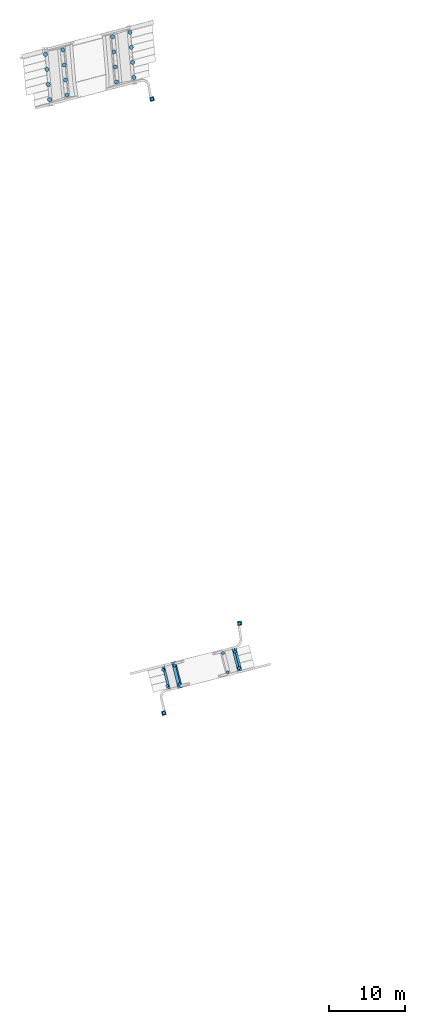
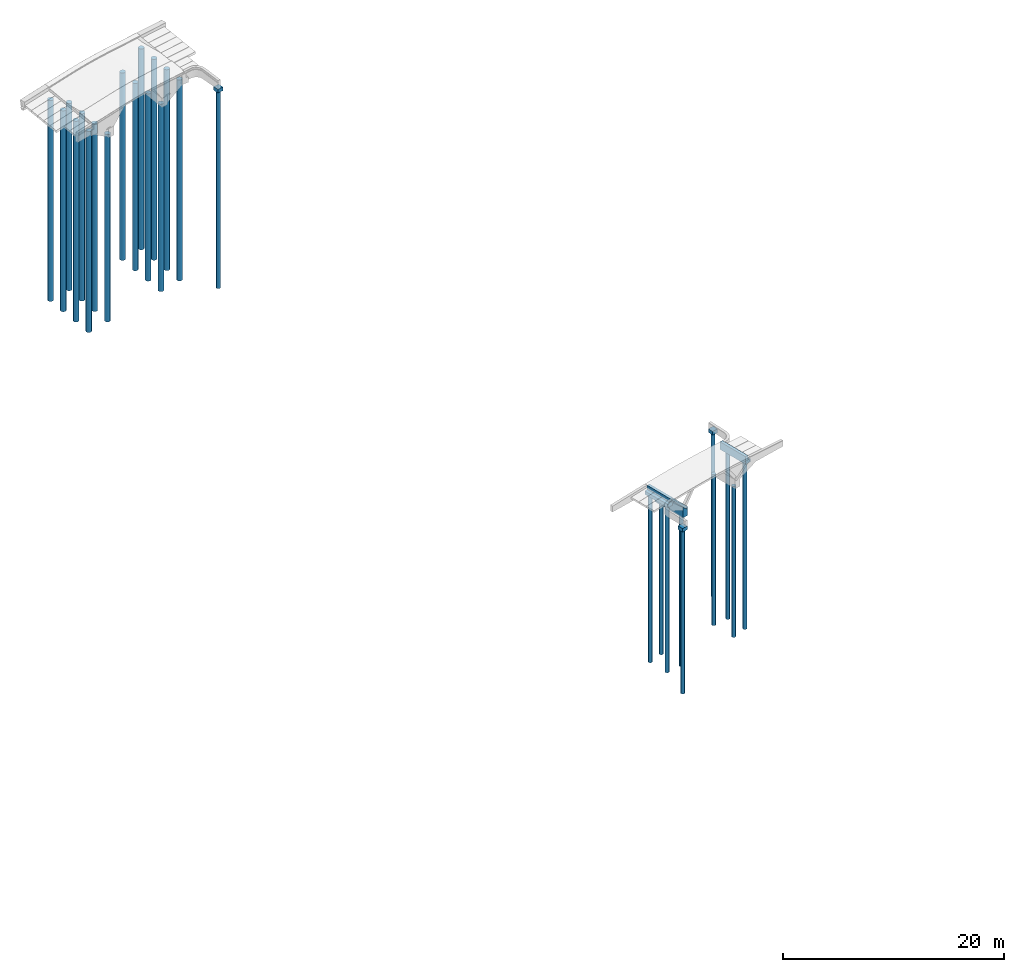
# One storey, part 2 of 15: 27 piles, 6 footings.
"""IFC2X3 building model written with IfcOpenShell, lengths in millimetres."""

from ifc_helpers import new_model, entity, si_unit, converted_unit, derived_unit, direction, frame, frame_2d, origin, origin_2d_with_axis, place, context, subcontext, project, spatial, polyline, rectangle, circle, outline, extrude, material, element, save


model = new_model("IFC2X3")

# Units and contexts
model_context = context("Model", 3, precision=0.01, world=origin(), true_north=direction((6.12303176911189e-17, 1.0)))
body_context = subcontext(model_context, "Body", "Model", "MODEL_VIEW")
ifc_project = project(units=[si_unit("LENGTHUNIT", "METRE", prefix="MILLI"), si_unit("AREAUNIT", "SQUARE_METRE"), si_unit("VOLUMEUNIT", "CUBIC_METRE"), converted_unit("PLANEANGLEUNIT", "DEGREE", entity("IfcRatioMeasure", 0.0174532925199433), si_unit("PLANEANGLEUNIT", "RADIAN"), dimensions=[0, 0, 0, 0, 0, 0, 0]), si_unit("MASSUNIT", "GRAM", prefix="KILO"), derived_unit("MASSDENSITYUNIT", [(si_unit("MASSUNIT", "GRAM", prefix="KILO"), 1), (si_unit("LENGTHUNIT", "METRE"), -3)]), si_unit("TIMEUNIT", "SECOND"), si_unit("FREQUENCYUNIT", "HERTZ"), si_unit("THERMODYNAMICTEMPERATUREUNIT", "DEGREE_CELSIUS"), derived_unit("THERMALTRANSMITTANCEUNIT", [(si_unit("MASSUNIT", "GRAM", prefix="KILO"), 1), (si_unit("THERMODYNAMICTEMPERATUREUNIT", "KELVIN"), -1), (si_unit("TIMEUNIT", "SECOND"), -3)]), derived_unit("VOLUMETRICFLOWRATEUNIT", [(si_unit("LENGTHUNIT", "METRE"), 3), (si_unit("TIMEUNIT", "SECOND"), -1)]), si_unit("ELECTRICCURRENTUNIT", "AMPERE"), si_unit("ELECTRICVOLTAGEUNIT", "VOLT"), si_unit("POWERUNIT", "WATT"), si_unit("FORCEUNIT", "NEWTON", prefix="KILO"), si_unit("ILLUMINANCEUNIT", "LUX"), si_unit("LUMINOUSFLUXUNIT", "LUMEN"), si_unit("LUMINOUSINTENSITYUNIT", "CANDELA"), derived_unit("USERDEFINED", [(si_unit("MASSUNIT", "GRAM", prefix="KILO"), -1), (si_unit("LENGTHUNIT", "METRE"), -2), (si_unit("TIMEUNIT", "SECOND"), 3), (si_unit("LUMINOUSFLUXUNIT", "LUMEN"), 1)]), derived_unit("LINEARVELOCITYUNIT", [(si_unit("LENGTHUNIT", "METRE"), 1), (si_unit("TIMEUNIT", "SECOND"), -1)]), si_unit("PRESSUREUNIT", "PASCAL"), derived_unit("USERDEFINED", [(si_unit("LENGTHUNIT", "METRE"), -2), (si_unit("MASSUNIT", "GRAM", prefix="KILO"), 1), (si_unit("TIMEUNIT", "SECOND"), -2)])], contexts=[model_context])

# Site, building, storey
site_placement = place(None, origin())
site = spatial("IfcSite", under=ifc_project, at=site_placement, Name="Bruggen Achterburggracht Machinesloot", CompositionType="ELEMENT")
building_placement = place(site_placement, origin())
building = spatial("IfcBuilding", under=site, at=building_placement, Name="Bruggen Achterburggracht Machinesloot", CompositionType="ELEMENT")
storey_placement = place(building_placement, origin())
storey = spatial("IfcBuildingStorey", under=building, at=storey_placement, Name="00 begane grond", CompositionType="ELEMENT", Elevation=2.70716782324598e-13)

# Footings
ifc_material = material(Name="00_PBT_MAT_beton t.p.g.")
footing_1_placement = place(storey_placement, origin())
element("IfcFooting", 1, at=footing_1_placement, inside=storey, material=ifc_material, Name="319-150_funderingsbalk tpv stootplaat:Brug 2_600x850", ObjectType="319-150_funderingsbalk tpv stootplaat:Brug 2_600x850", PredefinedType="NOTDEFINED", context=body_context, shape_type="SweptSolid", body=[
    extrude(outline(polyline([(-463.546431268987, -225.219582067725), (-163.94089909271, -225.219582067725), (167.312349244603, -225.219582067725), (386.453568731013, -225.219582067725), (386.453568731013, -223.02376139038), (386.453568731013, 74.7804179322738), (-63.5464312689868, 74.7804179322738), (-63.5464312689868, 224.780417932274), (-108.546431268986, 374.780417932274), (-463.546431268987, 374.780417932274), (-463.546431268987, -225.219582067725)])), frame((-47678.0302227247, 38070.2188385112, -126.453568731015), z_axis=(-0.245012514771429, 0.969519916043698, 0.0), x_axis=(0.0, 0.0, 1.0)), (0.0, 0.0, 1.0), 3300.0),
])
footing_2_placement = place(storey_placement, origin())
element("IfcFooting", 2, at=footing_2_placement, inside=storey, material=ifc_material, Name="319-150_funderingsbalk tpv stootplaat:Brug 2_600x850", ObjectType="319-150_funderingsbalk tpv stootplaat:Brug 2_600x850", PredefinedType="NOTDEFINED", context=body_context, shape_type="SweptSolid", body=[
    extrude(outline(polyline([(-451.222422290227, -369.569371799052), (-96.222422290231, -369.569371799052), (-51.2224222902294, -219.569371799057), (-51.222422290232, -69.5693717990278), (398.777577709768, -69.5693717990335), (398.777577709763, 230.430628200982), (179.636358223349, 230.430628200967), (232.107441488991, 170.069551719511), (43.4300464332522, 6.05479447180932), (-151.616890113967, 230.430628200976), (-451.222422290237, 230.430628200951), (-451.222422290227, -369.569371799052)])), frame((-57039.3754039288, 35704.4636987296, -138.777577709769), z_axis=(-0.245012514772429, 0.969519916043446, 0.0), x_axis=(0.0, 0.0, 1.0)), (0.0, 0.0, 1.0), 2976.04309519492),
])
footing_3_placement = place(storey_placement, origin())
element("IfcFooting", 3, at=footing_3_placement, inside=storey, material=ifc_material, Name="16_PBT_SF_funderingsbalk enkele sponning:Brug 2_600x1000", ObjectType="16_PBT_SF_funderingsbalk enkele sponning:Brug 2_600x1000", PredefinedType="NOTDEFINED", context=body_context, shape_type="SweptSolid", body=[
    extrude(outline(polyline([(-327.335792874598, -638.851428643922), (272.664207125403, -638.851428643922), (272.664207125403, 192.615743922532), (272.664207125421, 551.467365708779), (-163.321035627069, 172.471176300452), (-327.335792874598, 361.148571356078), (-327.335792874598, -638.851428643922)])), frame((-55508.5912709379, 35781.8847694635, -1711.14857135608), z_axis=(-0.245012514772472, 0.969519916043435, 0.0), x_axis=(-0.969519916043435, -0.245012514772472, 0.0)), (0.0, 0.0, 1.0), 3600.00000000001),
])

# Piles
pile_1_placement = place(storey_placement, origin())
element("IfcPile", 4, at=pile_1_placement, inside=storey, Name="17_PBT_SFO_paal_rond:Ø400 (schroefpaal) brug 2 -590P -19000NAP", ObjectType="17_PBT_SFO_paal_rond:Ø400 (schroefpaal) brug 2 -590P -19000NAP", ConstructionType="NOTDEFINED", PredefinedType="NOTDEFINED", context=body_context, shape_type="SweptSolid", body=[
    extrude(circle(Radius=200.0, at=origin_2d_with_axis()), frame((-48242.5616566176, 40609.2927584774, -19000.0), z_axis=(0.0, 0.0, 1.0), x_axis=(0.969519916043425, 0.245012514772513, 0.0)), (0.0, 0.0, 1.0), 18430.0),
])
pile_2_placement = place(storey_placement, origin())
element("IfcPile", 5, at=pile_2_placement, inside=storey, Name="17_PBT_SFO_paal_rond:Ø400 (schroefpaal) brug 2 -590P -19000NAP", ObjectType="17_PBT_SFO_paal_rond:Ø400 (schroefpaal) brug 2 -590P -19000NAP", ConstructionType="NOTDEFINED", PredefinedType="NOTDEFINED", context=body_context, shape_type="SweptSolid", body=[
    extrude(circle(Radius=200.0, at=frame_2d((-1.06126399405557e-12, -4.19944499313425e-12), x_axis=(1.0, 0.0))), frame((-47703.5341241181, 38476.3489431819, -19000.0), z_axis=(0.0, 0.0, 1.0), x_axis=(0.969519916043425, 0.245012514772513, 0.0)), (0.0, 0.0, 1.0), 18430.0),
])
pile_3_placement = place(storey_placement, origin())
element("IfcPile", 6, at=pile_3_placement, inside=storey, Name="17_PBT_SFO_paal_rond:Ø400 (schroefpaal) brug 2 -590P -19000NAP", ObjectType="17_PBT_SFO_paal_rond:Ø400 (schroefpaal) brug 2 -590P -19000NAP", ConstructionType="NOTDEFINED", PredefinedType="NOTDEFINED", context=body_context, shape_type="SweptSolid", body=[
    extrude(circle(Radius=200.0, at=frame_2d((-1.06126399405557e-12, -4.19944499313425e-12), x_axis=(1.0, 0.0))), frame((-57743.8568338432, 38208.1701137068, -19000.0), z_axis=(0.0, 0.0, 1.0), x_axis=(0.969519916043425, 0.245012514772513, 0.0)), (0.0, 0.0, 1.0), 18430.0),
])
pile_4_placement = place(storey_placement, origin())
element("IfcPile", 7, at=pile_4_placement, inside=storey, Name="17_PBT_SFO_paal_rond:Ø400 (schroefpaal) brug 2 -590P -19000NAP", ObjectType="17_PBT_SFO_paal_rond:Ø400 (schroefpaal) brug 2 -590P -19000NAP", ConstructionType="NOTDEFINED", PredefinedType="NOTDEFINED", context=body_context, shape_type="SweptSolid", body=[
    extrude(circle(Radius=200.0, at=origin_2d_with_axis()), frame((-57204.8293013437, 36075.2262984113, -19000.0), z_axis=(0.0, 0.0, 1.0), x_axis=(0.969519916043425, 0.245012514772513, 0.0)), (0.0, 0.0, 1.0), 18430.0),
])
pile_5_placement = place(storey_placement, origin())
element("IfcPile", 8, at=pile_5_placement, inside=storey, Name="17_PBT_SFO_paal_rond:Ø400 (schroefpaal) brug 2 -2350P -19000NAP", ObjectType="17_PBT_SFO_paal_rond:Ø400 (schroefpaal) brug 2 -2350P -19000NAP", ConstructionType="NOTDEFINED", PredefinedType="NOTDEFINED", context=body_context, shape_type="SweptSolid", body=[
    extrude(circle(Radius=200.0, at=origin_2d_with_axis()), frame((-49842.7960252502, 40411.1767180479, -19000.0), z_axis=(0.0, 0.0, 1.0), x_axis=(0.969519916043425, 0.245012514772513, 0.0)), (0.0, 0.0, 1.0), 16670.0),
])
pile_6_placement = place(storey_placement, origin())
element("IfcPile", 9, at=pile_6_placement, inside=storey, Name="17_PBT_SFO_paal_rond:Ø400 (schroefpaal) brug 2 -2350P -19000NAP", ObjectType="17_PBT_SFO_paal_rond:Ø400 (schroefpaal) brug 2 -2350P -19000NAP", ConstructionType="NOTDEFINED", PredefinedType="NOTDEFINED", context=body_context, shape_type="SweptSolid", body=[
    extrude(circle(Radius=200.0, at=frame_2d((-1.06126399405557e-12, -4.19944499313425e-12), x_axis=(1.0, 0.0))), frame((-49205.7634868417, 37890.424936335, -19000.0), z_axis=(0.0, 0.0, 1.0), x_axis=(0.969519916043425, 0.245012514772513, 0.0)), (0.0, 0.0, 1.0), 16670.0),
])
pile_7_placement = place(storey_placement, origin())
element("IfcPile", 10, at=pile_7_placement, inside=storey, Name="17_PBT_SFO_paal_rond:Ø400 (schroefpaal) brug 2 -2350P -19000NAP", ObjectType="17_PBT_SFO_paal_rond:Ø400 (schroefpaal) brug 2 -2350P -19000NAP", ConstructionType="NOTDEFINED", PredefinedType="NOTDEFINED", context=body_context, shape_type="SweptSolid", body=[
    extrude(circle(Radius=200.0, at=frame_2d((-1.06126399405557e-12, -4.19944499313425e-12), x_axis=(1.0, 0.0))), frame((-56241.6274711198, 38794.0941205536, -19000.0), z_axis=(0.0, 0.0, 1.0), x_axis=(0.969519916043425, 0.245012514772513, 0.0)), (0.0, 0.0, 1.0), 16670.0),
])
pile_8_placement = place(storey_placement, origin())
element("IfcPile", 11, at=pile_8_placement, inside=storey, Name="17_PBT_SFO_paal_rond:Ø400 (schroefpaal) brug 2 -2350P -19000NAP", ObjectType="17_PBT_SFO_paal_rond:Ø400 (schroefpaal) brug 2 -2350P -19000NAP", ConstructionType="NOTDEFINED", PredefinedType="NOTDEFINED", context=body_context, shape_type="SweptSolid", body=[
    extrude(circle(Radius=200.0, at=frame_2d((-1.06126399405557e-12, -4.19944499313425e-12), x_axis=(1.0, 0.0))), frame((-55604.5949327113, 36273.3423388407, -19000.0), z_axis=(0.0, 0.0, 1.0), x_axis=(0.969519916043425, 0.245012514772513, 0.0)), (0.0, 0.0, 1.0), 16670.0),
])
pile_9_placement = place(storey_placement, origin())
element("IfcPile", 12, at=pile_9_placement, inside=storey, Name="17_PBT_SFO_paal_rond:Ø550 (schroefpaal) brug 1 -2350P -23000NAP", ObjectType="17_PBT_SFO_paal_rond:Ø550 (schroefpaal) brug 1 -2350P -23000NAP", ConstructionType="NOTDEFINED", PredefinedType="NOTDEFINED", context=body_context, shape_type="SweptSolid", body=[
    extrude(circle(Radius=275.0, at=origin_2d_with_axis()), frame((-71017.2292512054, 120234.494545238, -23000.0), z_axis=(0.0, 0.0, 1.0), x_axis=(0.253655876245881, -0.967294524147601, 0.0)), (0.0, 0.0, 1.0), 20669.9999999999),
])
pile_10_placement = place(storey_placement, origin())
element("IfcPile", 13, at=pile_10_placement, inside=storey, Name="17_PBT_SFO_paal_rond:Ø550 (schroefpaal) brug 1 -2350P -23000NAP", ObjectType="17_PBT_SFO_paal_rond:Ø550 (schroefpaal) brug 1 -2350P -23000NAP", ConstructionType="NOTDEFINED", PredefinedType="NOTDEFINED", context=body_context, shape_type="SweptSolid", body=[
    extrude(circle(Radius=275.0, at=origin_2d_with_axis()), frame((-70836.1742635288, 118242.706631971, -23000.0), z_axis=(0.0, 0.0, 1.0), x_axis=(0.253655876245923, -0.96729452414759, 0.0)), (0.0, 0.0, 1.0), 20669.9999999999),
])
pile_11_placement = place(storey_placement, origin())
element("IfcPile", 14, at=pile_11_placement, inside=storey, Name="17_PBT_SFO_paal_rond:Ø550 (schroefpaal) brug 1 -2350P -23000NAP", ObjectType="17_PBT_SFO_paal_rond:Ø550 (schroefpaal) brug 1 -2350P -23000NAP", ConstructionType="NOTDEFINED", PredefinedType="NOTDEFINED", context=body_context, shape_type="SweptSolid", body=[
    extrude(circle(Radius=275.0, at=origin_2d_with_axis()), frame((-70655.1192758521, 116250.918718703, -23000.0), z_axis=(0.0, 0.0, 1.0), x_axis=(0.253655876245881, -0.967294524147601, 0.0)), (0.0, 0.0, 1.0), 20669.9999999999),
])
pile_12_placement = place(storey_placement, origin())
element("IfcPile", 15, at=pile_12_placement, inside=storey, Name="17_PBT_SFO_paal_rond:Ø550 (schroefpaal) brug 1 -2350P -23000NAP", ObjectType="17_PBT_SFO_paal_rond:Ø550 (schroefpaal) brug 1 -2350P -23000NAP", ConstructionType="NOTDEFINED", PredefinedType="NOTDEFINED", context=body_context, shape_type="SweptSolid", body=[
    extrude(circle(Radius=275.0, at=origin_2d_with_axis()), frame((-70474.0642881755, 114259.130805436, -23000.0), z_axis=(0.0, 0.0, 1.0), x_axis=(0.253655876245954, -0.967294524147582, 0.0)), (0.0, 0.0, 1.0), 20670.0),
])
pile_13_placement = place(storey_placement, origin())
element("IfcPile", 16, at=pile_13_placement, inside=storey, Name="17_PBT_SFO_paal_rond:Ø550 (schroefpaal) brug 1 -2350P -23000NAP", ObjectType="17_PBT_SFO_paal_rond:Ø550 (schroefpaal) brug 1 -2350P -23000NAP", ConstructionType="NOTDEFINED", PredefinedType="NOTDEFINED", context=body_context, shape_type="SweptSolid", body=[
    extrude(circle(Radius=275.0, at=origin_2d_with_axis()), frame((-64445.8437945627, 121957.724124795, -23000.0), z_axis=(0.0, 0.0, 1.0), x_axis=(0.253655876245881, -0.967294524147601, 0.0)), (0.0, 0.0, 1.0), 20669.9999999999),
])
pile_14_placement = place(storey_placement, origin())
element("IfcPile", 17, at=pile_14_placement, inside=storey, Name="17_PBT_SFO_paal_rond:Ø550 (schroefpaal) brug 1 -2350P -23000NAP", ObjectType="17_PBT_SFO_paal_rond:Ø550 (schroefpaal) brug 1 -2350P -23000NAP", ConstructionType="NOTDEFINED", PredefinedType="NOTDEFINED", context=body_context, shape_type="SweptSolid", body=[
    extrude(circle(Radius=275.0, at=origin_2d_with_axis()), frame((-64264.7888068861, 119965.936211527, -23000.0), z_axis=(0.0, 0.0, 1.0), x_axis=(0.253655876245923, -0.96729452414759, 0.0)), (0.0, 0.0, 1.0), 20669.9999999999),
])
pile_15_placement = place(storey_placement, origin())
element("IfcPile", 18, at=pile_15_placement, inside=storey, Name="17_PBT_SFO_paal_rond:Ø550 (schroefpaal) brug 1 -2350P -23000NAP", ObjectType="17_PBT_SFO_paal_rond:Ø550 (schroefpaal) brug 1 -2350P -23000NAP", ConstructionType="NOTDEFINED", PredefinedType="NOTDEFINED", context=body_context, shape_type="SweptSolid", body=[
    extrude(circle(Radius=275.0, at=origin_2d_with_axis()), frame((-64083.7338192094, 117974.14829826, -23000.0), z_axis=(0.0, 0.0, 1.0), x_axis=(0.253655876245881, -0.967294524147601, 0.0)), (0.0, 0.0, 1.0), 20669.9999999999),
])
pile_16_placement = place(storey_placement, origin())
element("IfcPile", 19, at=pile_16_placement, inside=storey, Name="17_PBT_SFO_paal_rond:Ø550 (schroefpaal) brug 1 -2350P -23000NAP", ObjectType="17_PBT_SFO_paal_rond:Ø550 (schroefpaal) brug 1 -2350P -23000NAP", ConstructionType="NOTDEFINED", PredefinedType="NOTDEFINED", context=body_context, shape_type="SweptSolid", body=[
    extrude(circle(Radius=275.0, at=origin_2d_with_axis()), frame((-63902.6788315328, 115982.360384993, -23000.0), z_axis=(0.0, 0.0, 1.0), x_axis=(0.253655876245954, -0.967294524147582, 0.0)), (0.0, 0.0, 1.0), 20670.0),
])
pile_17_placement = place(storey_placement, origin())
element("IfcPile", 20, at=pile_17_placement, inside=storey, Name="17_PBT_SFO_paal_rond:Ø550 (schroefpaal) brug 1 -860P -23000NAP", ObjectType="17_PBT_SFO_paal_rond:Ø550 (schroefpaal) brug 1 -860P -23000NAP", ConstructionType="NOTDEFINED", PredefinedType="NOTDEFINED", context=body_context, shape_type="SweptSolid", body=[
    extrude(circle(Radius=275.0, at=origin_2d_with_axis()), frame((-73311.8899884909, 119632.712010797, -23000.0), z_axis=(0.0, 0.0, 1.0), x_axis=(0.253655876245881, -0.967294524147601, 0.0)), (0.0, 0.0, 1.0), 22159.9999999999),
])
pile_18_placement = place(storey_placement, origin())
element("IfcPile", 21, at=pile_18_placement, inside=storey, Name="17_PBT_SFO_paal_rond:Ø550 (schroefpaal) brug 1 -860P -23000NAP", ObjectType="17_PBT_SFO_paal_rond:Ø550 (schroefpaal) brug 1 -860P -23000NAP", ConstructionType="NOTDEFINED", PredefinedType="NOTDEFINED", context=body_context, shape_type="SweptSolid", body=[
    extrude(circle(Radius=275.0, at=origin_2d_with_axis()), frame((-73130.8350008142, 117640.92409753, -23000.0), z_axis=(0.0, 0.0, 1.0), x_axis=(0.253655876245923, -0.96729452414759, 0.0)), (0.0, 0.0, 1.0), 22159.9999999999),
])
pile_19_placement = place(storey_placement, origin())
element("IfcPile", 22, at=pile_19_placement, inside=storey, Name="17_PBT_SFO_paal_rond:Ø550 (schroefpaal) brug 1 -860P -23000NAP", ObjectType="17_PBT_SFO_paal_rond:Ø550 (schroefpaal) brug 1 -860P -23000NAP", ConstructionType="NOTDEFINED", PredefinedType="NOTDEFINED", context=body_context, shape_type="SweptSolid", body=[
    extrude(circle(Radius=275.0, at=origin_2d_with_axis()), frame((-72949.7800131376, 115649.136184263, -23000.0), z_axis=(0.0, 0.0, 1.0), x_axis=(0.253655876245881, -0.967294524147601, 0.0)), (0.0, 0.0, 1.0), 22159.9999999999),
])
pile_20_placement = place(storey_placement, origin())
element("IfcPile", 23, at=pile_20_placement, inside=storey, Name="17_PBT_SFO_paal_rond:Ø550 (schroefpaal) brug 1 -860P -23000NAP", ObjectType="17_PBT_SFO_paal_rond:Ø550 (schroefpaal) brug 1 -860P -23000NAP", ConstructionType="NOTDEFINED", PredefinedType="NOTDEFINED", context=body_context, shape_type="SweptSolid", body=[
    extrude(circle(Radius=275.0, at=origin_2d_with_axis()), frame((-72768.7250254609, 113657.348270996, -23000.0), z_axis=(0.0, 0.0, 1.0), x_axis=(0.253655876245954, -0.967294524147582, 0.0)), (0.0, 0.0, 1.0), 22160.0),
])
pile_21_placement = place(storey_placement, origin())
element("IfcPile", 24, at=pile_21_placement, inside=storey, Name="17_PBT_SFO_paal_rond:Ø550 (schroefpaal) brug 1 -860P -23000NAP", ObjectType="17_PBT_SFO_paal_rond:Ø550 (schroefpaal) brug 1 -860P -23000NAP", ConstructionType="NOTDEFINED", PredefinedType="NOTDEFINED", context=body_context, shape_type="SweptSolid", body=[
    extrude(circle(Radius=275.0, at=origin_2d_with_axis()), frame((-62151.1825266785, 122559.506707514, -23000.0), z_axis=(0.0, 0.0, 1.0), x_axis=(0.253655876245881, -0.967294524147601, 0.0)), (0.0, 0.0, 1.0), 22159.9999999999),
])
pile_22_placement = place(storey_placement, origin())
element("IfcPile", 25, at=pile_22_placement, inside=storey, Name="17_PBT_SFO_paal_rond:Ø550 (schroefpaal) brug 1 -860P -23000NAP", ObjectType="17_PBT_SFO_paal_rond:Ø550 (schroefpaal) brug 1 -860P -23000NAP", ConstructionType="NOTDEFINED", PredefinedType="NOTDEFINED", context=body_context, shape_type="SweptSolid", body=[
    extrude(circle(Radius=275.0, at=origin_2d_with_axis()), frame((-61970.1275390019, 120567.718794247, -23000.0), z_axis=(0.0, 0.0, 1.0), x_axis=(0.253655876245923, -0.96729452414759, 0.0)), (0.0, 0.0, 1.0), 22159.9999999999),
])
pile_23_placement = place(storey_placement, origin())
element("IfcPile", 26, at=pile_23_placement, inside=storey, Name="17_PBT_SFO_paal_rond:Ø550 (schroefpaal) brug 1 -860P -23000NAP", ObjectType="17_PBT_SFO_paal_rond:Ø550 (schroefpaal) brug 1 -860P -23000NAP", ConstructionType="NOTDEFINED", PredefinedType="NOTDEFINED", context=body_context, shape_type="SweptSolid", body=[
    extrude(circle(Radius=275.0, at=origin_2d_with_axis()), frame((-61789.0725513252, 118575.93088098, -23000.0), z_axis=(0.0, 0.0, 1.0), x_axis=(0.253655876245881, -0.967294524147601, 0.0)), (0.0, 0.0, 1.0), 22159.9999999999),
])
pile_24_placement = place(storey_placement, origin())
element("IfcPile", 27, at=pile_24_placement, inside=storey, Name="17_PBT_SFO_paal_rond:Ø550 (schroefpaal) brug 1 -860P -23000NAP", ObjectType="17_PBT_SFO_paal_rond:Ø550 (schroefpaal) brug 1 -860P -23000NAP", ConstructionType="NOTDEFINED", PredefinedType="NOTDEFINED", context=body_context, shape_type="SweptSolid", body=[
    extrude(circle(Radius=275.0, at=origin_2d_with_axis()), frame((-61608.0175636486, 116584.142967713, -23000.0), z_axis=(0.0, 0.0, 1.0), x_axis=(0.253655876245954, -0.967294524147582, 0.0)), (0.0, 0.0, 1.0), 22160.0),
])

# Footing
footing_4_placement = place(storey_placement, origin())
element("IfcFooting", 28, at=footing_4_placement, inside=storey, material=ifc_material, Name="16_PBT_SFO_beton_poer:600x600x400", ObjectType="16_PBT_SFO_beton_poer:600x600x400", PredefinedType="NOTDEFINED", context=body_context, shape_type="SweptSolid", body=[
    extrude(rectangle(XDim=600.000000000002, YDim=600.0, at=frame_2d((1.4210854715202e-12, 8.55493453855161e-12), x_axis=(1.0, 0.0))), frame((-59212.1424162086, 113722.704188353, -1260.0), z_axis=(0.0, 0.0, 1.0), x_axis=(-0.986528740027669, -0.163588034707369, 0.0)), (0.0, 0.0, 1.0), 400.0),
])

# Pile
pile_25_placement = place(storey_placement, origin())
element("IfcPile", 29, at=pile_25_placement, inside=storey, Name="17_PBT_SFO_paal_rond:Ø400 (schroefpaal) brug 1 -1260P -23000NAP 2", ObjectType="17_PBT_SFO_paal_rond:Ø400 (schroefpaal) brug 1 -1260P -23000NAP 2", ConstructionType="NOTDEFINED", PredefinedType="NOTDEFINED", context=body_context, shape_type="SweptSolid", body=[
    extrude(circle(Radius=200.0, at=origin_2d_with_axis()), frame((-59212.1424162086, 113722.704188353, -23000.0), z_axis=(0.0, 0.0, 1.0), x_axis=(0.967294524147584, 0.253655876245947, 0.0)), (0.0, 0.0, 1.0), 21759.9999999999),
])

# Footing
footing_5_placement = place(storey_placement, origin())
element("IfcFooting", 30, at=footing_5_placement, inside=storey, material=ifc_material, Name="16_PBT_SFO_beton_poer:600x600x400", ObjectType="16_PBT_SFO_beton_poer:600x600x400", PredefinedType="NOTDEFINED", context=body_context, shape_type="SweptSolid", body=[
    extrude(rectangle(XDim=599.999999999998, YDim=599.999999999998, at=frame_2d((-5.25801624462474e-12, -3.12638803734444e-12), x_axis=(1.0, 0.0))), frame((-57655.5443807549, 32475.1874914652, -990.0), z_axis=(0.0, 0.0, 1.0), x_axis=(-0.969543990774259, -0.244917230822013, 0.0)), (0.0, 0.0, 1.0), 400.0),
])

# Pile
pile_26_placement = place(storey_placement, origin())
element("IfcPile", 31, at=pile_26_placement, inside=storey, Name="17_PBT_SFO_paal_rond:Ø400 (schroefpaal) brug 2 -590P -19000NAP", ObjectType="17_PBT_SFO_paal_rond:Ø400 (schroefpaal) brug 2 -590P -19000NAP", ConstructionType="NOTDEFINED", PredefinedType="NOTDEFINED", context=body_context, shape_type="SweptSolid", body=[
    extrude(circle(Radius=200.0, at=origin_2d_with_axis()), frame((-57655.3765169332, 32474.5230332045, -19000.0), z_axis=(0.0, 0.0, 1.0), x_axis=(0.96953549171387, 0.244950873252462, 0.0)), (0.0, 0.0, 1.0), 18030.0),
])

# Footing
footing_6_placement = place(storey_placement, origin())
element("IfcFooting", 32, at=footing_6_placement, inside=storey, material=ifc_material, Name="16_PBT_SFO_beton_poer:600x600x400", ObjectType="16_PBT_SFO_beton_poer:600x600x400", PredefinedType="NOTDEFINED", context=body_context, shape_type="SweptSolid", body=[
    extrude(rectangle(XDim=600.000000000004, YDim=599.999999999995, at=origin_2d_with_axis()), frame((-47634.8484794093, 44358.3450612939, -990.0), z_axis=(0.0, 0.0, 1.0), x_axis=(-0.986468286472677, -0.163952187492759, 0.0)), (0.0, 0.0, 1.0), 400.0),
])

# Pile
pile_27_placement = place(storey_placement, origin())
element("IfcPile", 33, at=pile_27_placement, inside=storey, Name="17_PBT_SFO_paal_rond:Ø400 (schroefpaal) brug 2 -590P -19000NAP", ObjectType="17_PBT_SFO_paal_rond:Ø400 (schroefpaal) brug 2 -590P -19000NAP", ConstructionType="NOTDEFINED", PredefinedType="NOTDEFINED", context=body_context, shape_type="SweptSolid", body=[
    extrude(circle(Radius=200.0, at=origin_2d_with_axis()), frame((-47634.8484794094, 44358.3450612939, -19000.0), z_axis=(0.0, 0.0, 1.0), x_axis=(0.967294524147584, 0.253655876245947, 0.0)), (0.0, 0.0, 1.0), 18030.0),
])

save(model, "model.ifc")
